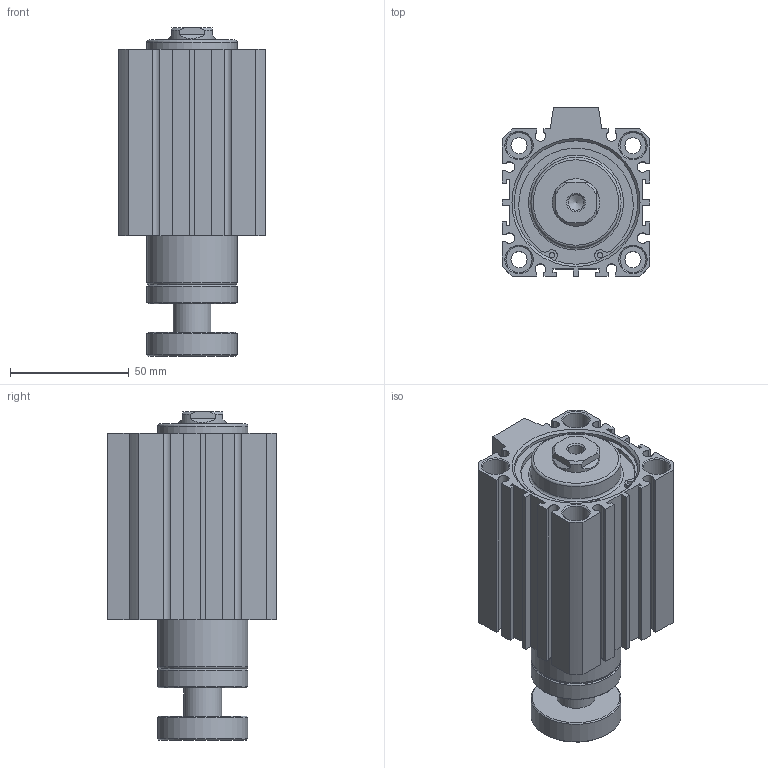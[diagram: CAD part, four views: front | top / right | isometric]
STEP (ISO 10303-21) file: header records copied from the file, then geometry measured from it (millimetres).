
FILE_DESCRIPTION((''),'2;1');
FILE_NAME('I:\3D電子目錄\氣缸\JDAR\JDAR-S\JDAR50-S\JDAR50x40-S.stp','2007-05-05T10:00:31',('662F206'),(''),'Autodesk Inventor 11','Autodesk Inventor 11','');
FILE_SCHEMA(('AUTOMOTIVE_DESIGN { 1 0 10303 214 1 1 1 1 }'));
Length unit declared in the file: millimetre
Products named in the file (3): JDAR50-S; JDAR50; R 形環 52
Assembly tree (3 placements, depth 2):
  JDAR50-S
    JDAR50
    R 形環 52  x2
Bounding box: 62 x 71 x 138.3 mm (x, y, z)
Volume: 317145.7 mm3; surface area: 61055.5 mm2
Topology: 3 solids, 3 shells, 193 faces, 472 edges, 309 vertices
Faces by surface type: plane 110, cylinder 54, cone 23, bspline 4, torus 2
Full cylindrical faces by diameter (mm): 2.3 x4, 2.7 x2, 6.8 x4, 11 x8, 16 x1, 20 x1, 38 x4, 52 x4, 55 x2
Entity records: 5195 total; most frequent: CARTESIAN_POINT 989, DIRECTION 870, ORIENTED_EDGE 764, EDGE_CURVE 382, AXIS2_PLACEMENT_3D 313, VERTEX_POINT 282, EDGE_LOOP 270, VECTOR 244
